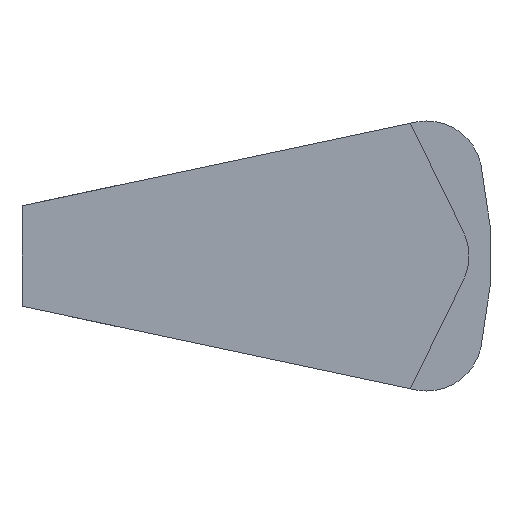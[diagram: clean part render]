
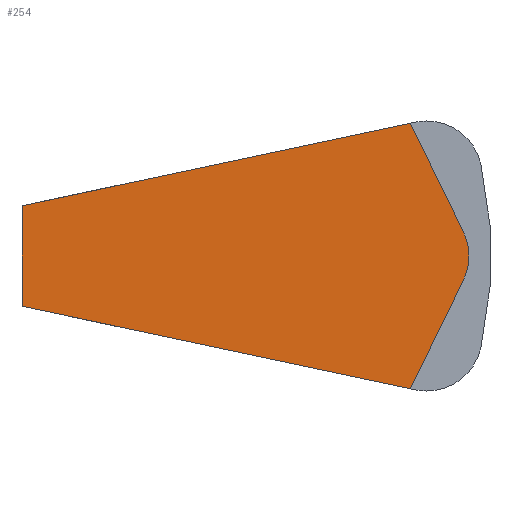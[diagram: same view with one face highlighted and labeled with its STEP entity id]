
A CAD part, left-side view. The second image highlights one B-rep face of the part: STEP entity #254.
In plain terms, the highlighted planar face has unit normal (-1, 0, 0).
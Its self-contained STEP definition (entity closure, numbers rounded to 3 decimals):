
#58 = EDGE_CURVE ( 'NONE', #1252, #1255, #806, .T. ) ;
#62 = EDGE_CURVE ( 'NONE', #1255, #1244, #813, .T. ) ;
#76 = EDGE_CURVE ( 'NONE', #1238, #1252, #834, .T. ) ;
#83 = EDGE_CURVE ( 'NONE', #1238, #1239, #844, .T. ) ;
#103 = EDGE_CURVE ( 'NONE', #1239, #1245, #880, .T. ) ;
#107 = EDGE_CURVE ( 'NONE', #1244, #1245, #890, .T. ) ;
#164 = AXIS2_PLACEMENT_3D ( 'NONE', #1524, #1529, #1530 ) ;
#201 = AXIS2_PLACEMENT_3D ( 'NONE', #391, #299, #306 ) ;
#254 = ADVANCED_FACE ( 'NONE', ( #975 ), #387, .F. ) ;
#299 = DIRECTION ( 'NONE',  ( 1., 0., 0. ) ) ;
#306 = DIRECTION ( 'NONE',  ( 0., 0., -1. ) ) ;
#387 = PLANE ( 'NONE',  #201 ) ;
#391 = CARTESIAN_POINT ( 'NONE',  ( -10.5, -6.149, -14.574 ) ) ;
#459 = CARTESIAN_POINT ( 'NONE',  ( -10.5, 1.8, 1.81 ) ) ;
#460 = CARTESIAN_POINT ( 'NONE',  ( -10.5, -12.192, 4.784 ) ) ;
#470 = CARTESIAN_POINT ( 'NONE',  ( -10.5, -14.098, -0.877 ) ) ;
#473 = CARTESIAN_POINT ( 'NONE',  ( -10.5, -14.098, 0.877 ) ) ;
#490 = CARTESIAN_POINT ( 'NONE',  ( -10.5, 1.8, -1.81 ) ) ;
#500 = CARTESIAN_POINT ( 'NONE',  ( -10.5, -12.192, -4.784 ) ) ;
#560 = EDGE_LOOP ( 'NONE', ( #601, #602, #603, #604, #605, #606 ) ) ;
#601 = ORIENTED_EDGE ( 'NONE', *, *, #107, .T. ) ;
#602 = ORIENTED_EDGE ( 'NONE', *, *, #103, .F. ) ;
#603 = ORIENTED_EDGE ( 'NONE', *, *, #83, .F. ) ;
#604 = ORIENTED_EDGE ( 'NONE', *, *, #76, .T. ) ;
#605 = ORIENTED_EDGE ( 'NONE', *, *, #58, .T. ) ;
#606 = ORIENTED_EDGE ( 'NONE', *, *, #62, .T. ) ;
#775 = VECTOR ( 'NONE', #1414, 1000. ) ;
#806 = LINE ( 'NONE', #1379, #775 ) ;
#808 = VECTOR ( 'NONE', #1424, 1000. ) ;
#813 = LINE ( 'NONE', #1412, #808 ) ;
#834 = LINE ( 'NONE', #1447, #836 ) ;
#836 = VECTOR ( 'NONE', #1455, 1000. ) ;
#840 = VECTOR ( 'NONE', #1473, 1000. ) ;
#844 = LINE ( 'NONE', #1472, #840 ) ;
#880 = LINE ( 'NONE', #1519, #881 ) ;
#881 = VECTOR ( 'NONE', #1520, 1000. ) ;
#890 = CIRCLE ( 'NONE', #164, 2. ) ;
#975 = FACE_OUTER_BOUND ( 'NONE', #560, .T. ) ;
#1238 = VERTEX_POINT ( 'NONE', #459 ) ;
#1239 = VERTEX_POINT ( 'NONE', #460 ) ;
#1244 = VERTEX_POINT ( 'NONE', #470 ) ;
#1245 = VERTEX_POINT ( 'NONE', #473 ) ;
#1252 = VERTEX_POINT ( 'NONE', #490 ) ;
#1255 = VERTEX_POINT ( 'NONE', #500 ) ;
#1379 = CARTESIAN_POINT ( 'NONE',  ( -10.5, -2.473, -2.718 ) ) ;
#1412 = CARTESIAN_POINT ( 'NONE',  ( -10.5, -18.658, 8.473 ) ) ;
#1414 = DIRECTION ( 'NONE',  ( 0., -0.978, -0.208 ) ) ;
#1424 = DIRECTION ( 'NONE',  ( 0., -0.438, 0.899 ) ) ;
#1447 = CARTESIAN_POINT ( 'NONE',  ( -10.5, 1.8, -14.574 ) ) ;
#1455 = DIRECTION ( 'NONE',  ( 0., 0., -1. ) ) ;
#1472 = CARTESIAN_POINT ( 'NONE',  ( -10.5, -2.473, 2.718 ) ) ;
#1473 = DIRECTION ( 'NONE',  ( 0., -0.978, 0.208 ) ) ;
#1519 = CARTESIAN_POINT ( 'NONE',  ( -10.5, -18.658, -8.473 ) ) ;
#1520 = DIRECTION ( 'NONE',  ( 0., -0.438, -0.899 ) ) ;
#1524 = CARTESIAN_POINT ( 'NONE',  ( -10.5, -12.3, 0. ) ) ;
#1529 = DIRECTION ( 'NONE',  ( -1., 0., 0. ) ) ;
#1530 = DIRECTION ( 'NONE',  ( 0., 0., -1. ) ) ;
